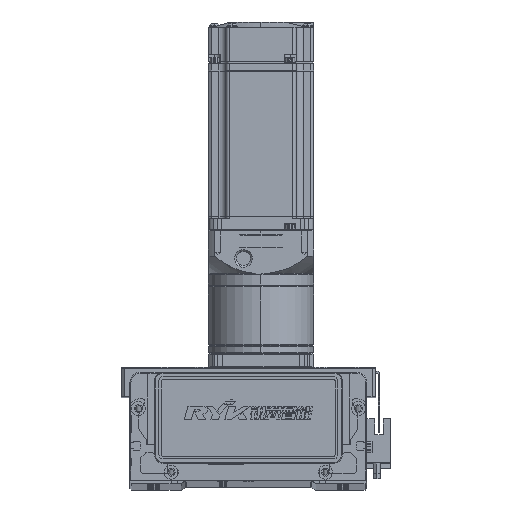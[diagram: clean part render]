
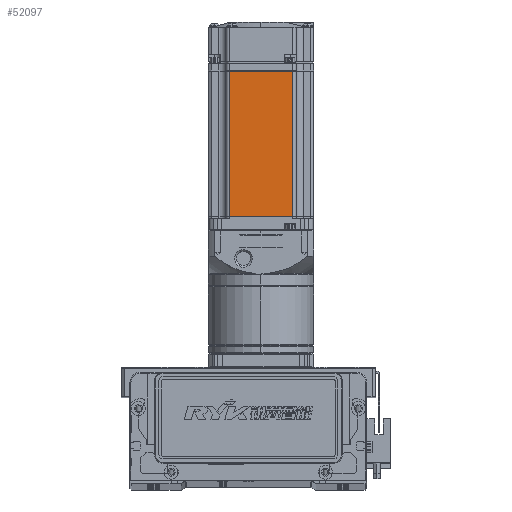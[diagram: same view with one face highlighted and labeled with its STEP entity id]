
A CAD part, top view. The second image highlights one B-rep face of the part: STEP entity #52097.
In plain terms, the highlighted planar face has unit normal (0, 0, 1).
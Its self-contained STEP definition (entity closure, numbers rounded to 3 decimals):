
#1125 = LINE ( 'NONE', #79606, #88135 ) ;
#1978 = EDGE_CURVE ( 'NONE', #27539, #41602, #66755, .T. ) ;
#7197 = DIRECTION ( 'NONE',  ( 0., -1., 0. ) ) ;
#14978 = DIRECTION ( 'NONE',  ( 1., 0., 0. ) ) ;
#16042 = FACE_OUTER_BOUND ( 'NONE', #58357, .T. ) ;
#16329 = ORIENTED_EDGE ( 'NONE', *, *, #1978, .F. ) ;
#18449 = VECTOR ( 'NONE', #30230, 1000. ) ;
#24875 = LINE ( 'NONE', #85873, #46307 ) ;
#27539 = VERTEX_POINT ( 'NONE', #67360 ) ;
#30230 = DIRECTION ( 'NONE',  ( 0., -1., 0. ) ) ;
#30565 = DIRECTION ( 'NONE',  ( -1., 0., 0. ) ) ;
#31118 = CARTESIAN_POINT ( 'NONE',  ( -7.75, 0., 30. ) ) ;
#34825 = CARTESIAN_POINT ( 'NONE',  ( -6.5, -25., 30. ) ) ;
#40426 = LINE ( 'NONE', #61789, #86641 ) ;
#41564 = EDGE_CURVE ( 'NONE', #44123, #70009, #40426, .T. ) ;
#41602 = VERTEX_POINT ( 'NONE', #75595 ) ;
#42323 = PLANE ( 'NONE',  #75409 ) ;
#44123 = VERTEX_POINT ( 'NONE', #57216 ) ;
#44550 = ORIENTED_EDGE ( 'NONE', *, *, #75525, .F. ) ;
#46307 = VECTOR ( 'NONE', #30565, 1000. ) ;
#52097 = ADVANCED_FACE ( 'NONE', ( #16042 ), #42323, .T. ) ;
#56234 = ORIENTED_EDGE ( 'NONE', *, *, #41564, .T. ) ;
#57216 = CARTESIAN_POINT ( 'NONE',  ( -90.45, 18., 30. ) ) ;
#58357 = EDGE_LOOP ( 'NONE', ( #16329, #87237, #56234, #44550 ) ) ;
#59128 = DIRECTION ( 'NONE',  ( -1., 0., 0. ) ) ;
#61789 = CARTESIAN_POINT ( 'NONE',  ( -90.45, 0., 30. ) ) ;
#66755 = LINE ( 'NONE', #31118, #18449 ) ;
#67360 = CARTESIAN_POINT ( 'NONE',  ( -7.75, 18., 30. ) ) ;
#70009 = VERTEX_POINT ( 'NONE', #70800 ) ;
#70800 = CARTESIAN_POINT ( 'NONE',  ( -90.45, -18., 30. ) ) ;
#74413 = EDGE_CURVE ( 'NONE', #27539, #44123, #24875, .T. ) ;
#75409 = AXIS2_PLACEMENT_3D ( 'NONE', #34825, #83188, #14978 ) ;
#75525 = EDGE_CURVE ( 'NONE', #41602, #70009, #1125, .T. ) ;
#75595 = CARTESIAN_POINT ( 'NONE',  ( -7.75, -18., 30. ) ) ;
#79606 = CARTESIAN_POINT ( 'NONE',  ( -6.5, -18., 30. ) ) ;
#83188 = DIRECTION ( 'NONE',  ( 0., 0., 1. ) ) ;
#85873 = CARTESIAN_POINT ( 'NONE',  ( -6.5, 18., 30. ) ) ;
#86641 = VECTOR ( 'NONE', #7197, 1000. ) ;
#87237 = ORIENTED_EDGE ( 'NONE', *, *, #74413, .T. ) ;
#88135 = VECTOR ( 'NONE', #59128, 1000. ) ;
